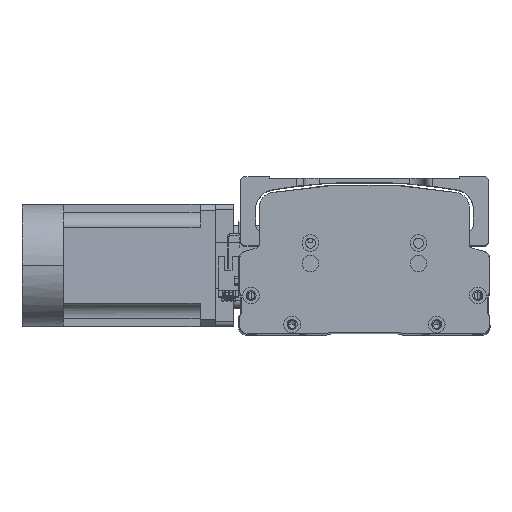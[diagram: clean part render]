
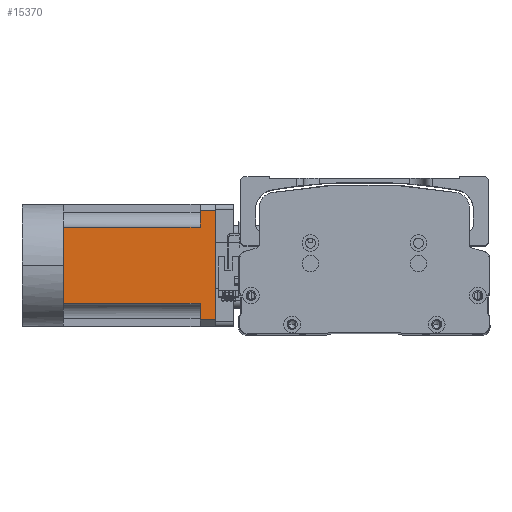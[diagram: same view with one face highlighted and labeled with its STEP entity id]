
A CAD part, top view. The second image highlights one B-rep face of the part: STEP entity #15370.
In plain terms, the highlighted planar face has unit normal (0, 0.003, 1) as drawn and (0, 0, -1) by its records, which use the part's own axes.
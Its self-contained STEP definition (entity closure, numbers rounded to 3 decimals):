
#519 = LINE ( 'NONE', #32618, #9909 ) ;
#991 = LINE ( 'NONE', #17627, #11492 ) ;
#1035 = VECTOR ( 'NONE', #29076, 1000. ) ;
#1678 = VECTOR ( 'NONE', #23549, 1000. ) ;
#2375 = VERTEX_POINT ( 'NONE', #34131 ) ;
#2379 = EDGE_CURVE ( 'NONE', #2375, #29906, #19340, .T. ) ;
#2755 = EDGE_CURVE ( 'NONE', #21972, #16569, #519, .T. ) ;
#5054 = AXIS2_PLACEMENT_3D ( 'NONE', #43020, #7841, #32525 ) ;
#6134 = CARTESIAN_POINT ( 'NONE',  ( 36., -27., -40. ) ) ;
#6155 = VERTEX_POINT ( 'NONE', #20796 ) ;
#6922 = ORIENTED_EDGE ( 'NONE', *, *, #2755, .F. ) ;
#7841 = DIRECTION ( 'NONE',  ( 0., 0., -1. ) ) ;
#7925 = CARTESIAN_POINT ( 'NONE',  ( -40., 90., -40. ) ) ;
#7929 = EDGE_CURVE ( 'NONE', #6155, #35248, #34842, .T. ) ;
#9784 = DIRECTION ( 'NONE',  ( -1., 0., 0. ) ) ;
#9889 = VERTEX_POINT ( 'NONE', #18732 ) ;
#9909 = VECTOR ( 'NONE', #15038, 1000. ) ;
#10403 = LINE ( 'NONE', #7925, #1035 ) ;
#10644 = DIRECTION ( 'NONE',  ( 0., 1., 0. ) ) ;
#11492 = VECTOR ( 'NONE', #31691, 1000. ) ;
#11771 = VECTOR ( 'NONE', #16816, 1000. ) ;
#12067 = EDGE_CURVE ( 'NONE', #19771, #2375, #10403, .T. ) ;
#12567 = VERTEX_POINT ( 'NONE', #38753 ) ;
#15038 = DIRECTION ( 'NONE',  ( -1., 0., 0. ) ) ;
#15370 = ADVANCED_FACE ( 'NONE', ( #18387 ), #39464, .T. ) ;
#15735 = LINE ( 'NONE', #30925, #31191 ) ;
#16078 = VECTOR ( 'NONE', #10644, 1000. ) ;
#16521 = EDGE_CURVE ( 'NONE', #12567, #16569, #28760, .T. ) ;
#16569 = VERTEX_POINT ( 'NONE', #22452 ) ;
#16816 = DIRECTION ( 'NONE',  ( 0., -1., 0. ) ) ;
#17627 = CARTESIAN_POINT ( 'NONE',  ( -40., 0., -40. ) ) ;
#18387 = FACE_OUTER_BOUND ( 'NONE', #21155, .T. ) ;
#18732 = CARTESIAN_POINT ( 'NONE',  ( 0., 0., -40. ) ) ;
#19340 = LINE ( 'NONE', #30598, #1678 ) ;
#19771 = VERTEX_POINT ( 'NONE', #32364 ) ;
#20796 = CARTESIAN_POINT ( 'NONE',  ( -25., 0., -40. ) ) ;
#20876 = ORIENTED_EDGE ( 'NONE', *, *, #35550, .T. ) ;
#21155 = EDGE_LOOP ( 'NONE', ( #6922, #34000, #40896, #25728, #20876, #22450, #38582, #21375, #25889 ) ) ;
#21375 = ORIENTED_EDGE ( 'NONE', *, *, #24483, .T. ) ;
#21972 = VERTEX_POINT ( 'NONE', #40742 ) ;
#22450 = ORIENTED_EDGE ( 'NONE', *, *, #22985, .T. ) ;
#22452 = CARTESIAN_POINT ( 'NONE',  ( -36., 100., -40. ) ) ;
#22985 = EDGE_CURVE ( 'NONE', #9889, #6155, #991, .T. ) ;
#23091 = CARTESIAN_POINT ( 'NONE',  ( 25., 0., -40. ) ) ;
#23549 = DIRECTION ( 'NONE',  ( 0., -1., 0. ) ) ;
#24483 = EDGE_CURVE ( 'NONE', #35248, #12567, #15735, .T. ) ;
#25713 = CARTESIAN_POINT ( 'NONE',  ( -36., -27., -40. ) ) ;
#25728 = ORIENTED_EDGE ( 'NONE', *, *, #2379, .T. ) ;
#25889 = ORIENTED_EDGE ( 'NONE', *, *, #16521, .T. ) ;
#27079 = EDGE_CURVE ( 'NONE', #21972, #19771, #29428, .T. ) ;
#28116 = VECTOR ( 'NONE', #37654, 1000. ) ;
#28688 = CARTESIAN_POINT ( 'NONE',  ( -25., -27., -40. ) ) ;
#28760 = LINE ( 'NONE', #25713, #44206 ) ;
#29076 = DIRECTION ( 'NONE',  ( -1., 0., 0. ) ) ;
#29229 = LINE ( 'NONE', #30594, #28116 ) ;
#29428 = LINE ( 'NONE', #6134, #11771 ) ;
#29906 = VERTEX_POINT ( 'NONE', #23091 ) ;
#30594 = CARTESIAN_POINT ( 'NONE',  ( -40., 0., -40. ) ) ;
#30598 = CARTESIAN_POINT ( 'NONE',  ( 25., -27., -40. ) ) ;
#30925 = CARTESIAN_POINT ( 'NONE',  ( -40., 90., -40. ) ) ;
#31191 = VECTOR ( 'NONE', #9784, 1000. ) ;
#31691 = DIRECTION ( 'NONE',  ( -1., 0., 0. ) ) ;
#32364 = CARTESIAN_POINT ( 'NONE',  ( 36., 90., -40. ) ) ;
#32525 = DIRECTION ( 'NONE',  ( -1., 0., 0. ) ) ;
#32618 = CARTESIAN_POINT ( 'NONE',  ( -40., 100., -40. ) ) ;
#34000 = ORIENTED_EDGE ( 'NONE', *, *, #27079, .T. ) ;
#34131 = CARTESIAN_POINT ( 'NONE',  ( 25., 90., -40. ) ) ;
#34842 = LINE ( 'NONE', #28688, #16078 ) ;
#35248 = VERTEX_POINT ( 'NONE', #41482 ) ;
#35550 = EDGE_CURVE ( 'NONE', #29906, #9889, #29229, .T. ) ;
#37654 = DIRECTION ( 'NONE',  ( -1., 0., 0. ) ) ;
#38582 = ORIENTED_EDGE ( 'NONE', *, *, #7929, .T. ) ;
#38753 = CARTESIAN_POINT ( 'NONE',  ( -36., 90., -40. ) ) ;
#39464 = PLANE ( 'NONE',  #5054 ) ;
#39836 = DIRECTION ( 'NONE',  ( 0., 1., 0. ) ) ;
#40742 = CARTESIAN_POINT ( 'NONE',  ( 36., 100., -40. ) ) ;
#40896 = ORIENTED_EDGE ( 'NONE', *, *, #12067, .T. ) ;
#41482 = CARTESIAN_POINT ( 'NONE',  ( -25., 90., -40. ) ) ;
#43020 = CARTESIAN_POINT ( 'NONE',  ( -40., -27., -40. ) ) ;
#44206 = VECTOR ( 'NONE', #39836, 1000. ) ;
